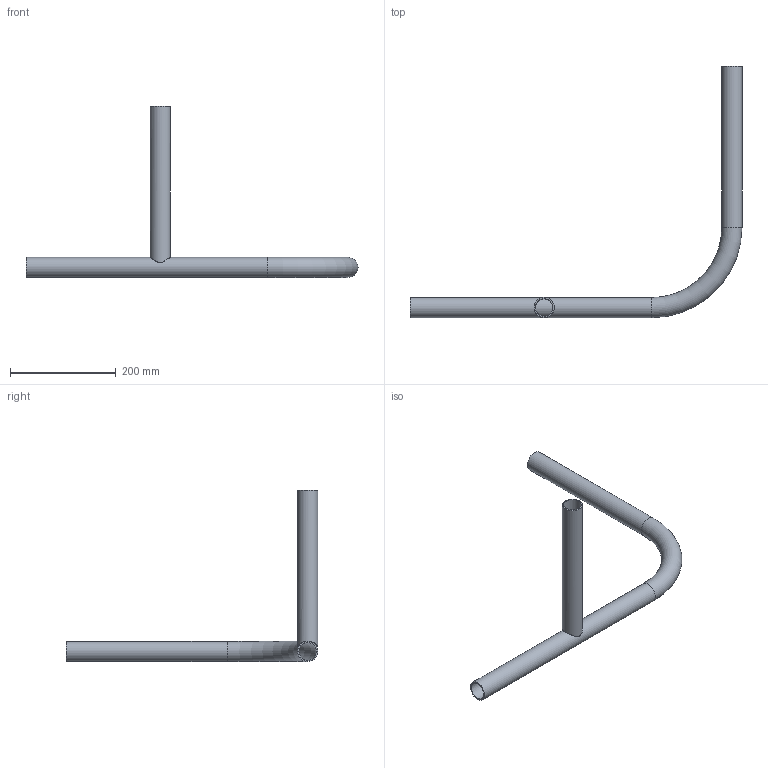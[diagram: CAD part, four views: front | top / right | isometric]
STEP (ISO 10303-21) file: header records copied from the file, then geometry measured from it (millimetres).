
FILE_DESCRIPTION(/* description */ (''),/* implementation_level */ '2;1');
FILE_NAME(/* name */ 'QS109_Input.step',/* time_stamp */ '2026-10-26T11:38:23-04:00',/* author */ (''),/* organization */ (''),/* preprocessor_version */ 'ST-DEVELOPER v20.2',/* originating_system */ 'Autodesk Translation Framework v15.17.0.0',/* authorisation */ '');
FILE_SCHEMA (('AUTOMOTIVE_DESIGN { 1 0 10303 214 3 1 1 }'));
Length unit declared in the file: centimetre
Products named in the file (1): 2026-10-26-11-38-19-526
Bounding box: 628.65 x 476.25 x 323.85 mm (x, y, z)
Volume: 349090.8 mm3; surface area: 290563.5 mm2
Topology: 2 solids, 2 shells, 13 faces, 30 edges, 20 vertices
Faces by surface type: cylinder 6, plane 3, torus 2, bspline 2
Full cylindrical faces by diameter (mm): 33.274 x3, 38.1 x3
Entity records: 4575 total; most frequent: CARTESIAN_POINT 4237, DIRECTION 64, ORIENTED_EDGE 60, EDGE_CURVE 30, AXIS2_PLACEMENT_3D 28, VERTEX_POINT 20, EDGE_LOOP 16, CIRCLE 16
